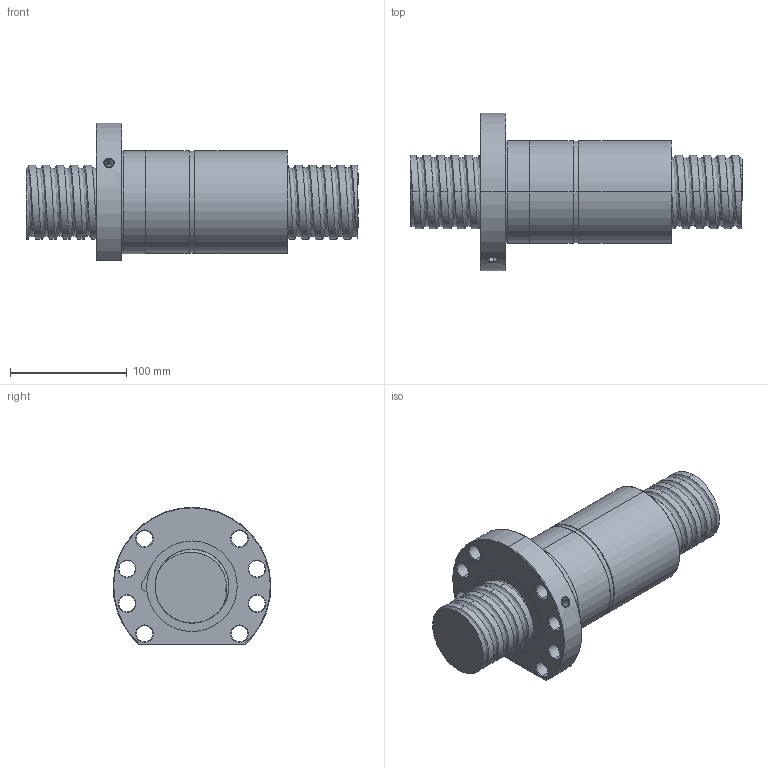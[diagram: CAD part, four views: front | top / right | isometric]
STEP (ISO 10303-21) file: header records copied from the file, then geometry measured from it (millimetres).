
FILE_DESCRIPTION (( 'STEP AP214' ), '1' );
FILE_NAME ('FDDC06310T5-F-B.STEP', '2010-07-07T01:34:13', ( 'XPAUTO' ), ( 'XPAUTO' ), 'SwSTEP 2.0', 'SolidWorks 2007', '' );
FILE_SCHEMA (( 'AUTOMOTIVE_DESIGN' ));
Products named in the file (3): FDDC06310T5-F-B.sldasm-Part-2_預設; FDDC06310T5-F-B.sldasm-Part-1_預設; FDDC06310T5-F-B
Assembly tree (2 placements, depth 2):
  FDDC06310T5-F-B
    FDDC06310T5-F-B.sldasm-Part-1_預設
    FDDC06310T5-F-B.sldasm-Part-2_預設
Bounding box: 284 x 134.96 x 117.5 mm (x, y, z)
Volume: 1441636.4 mm3; surface area: 179240 mm2
Topology: 2 solids, 2 shells, 159 faces, 398 edges, 248 vertices
Faces by surface type: cylinder 94, cone 32, plane 19, torus 9, bspline 5
Entity records: 47305 total; most frequent: CARTESIAN_POINT 43538, ORIENTED_EDGE 796, DIRECTION 730, EDGE_CURVE 398, AXIS2_PLACEMENT_3D 296, VERTEX_POINT 248, EDGE_LOOP 184, FACE_OUTER_BOUND 159
